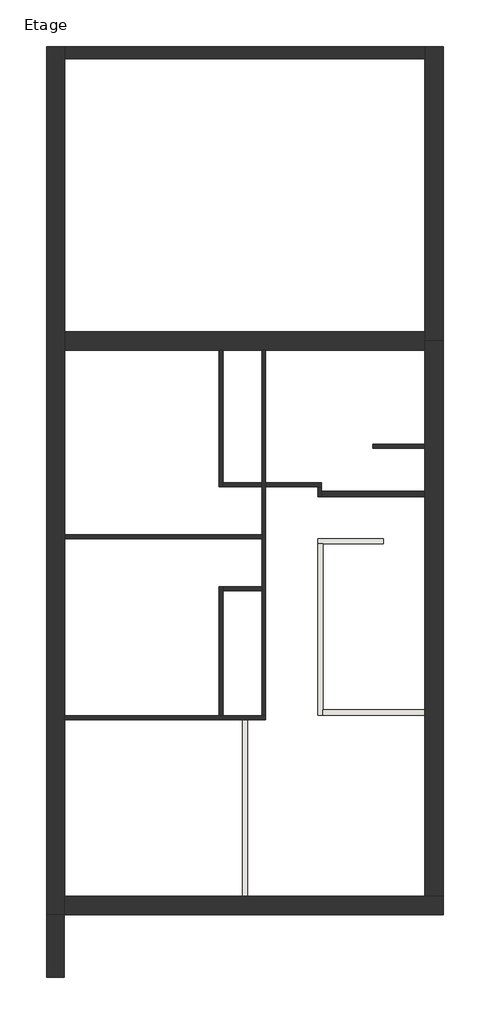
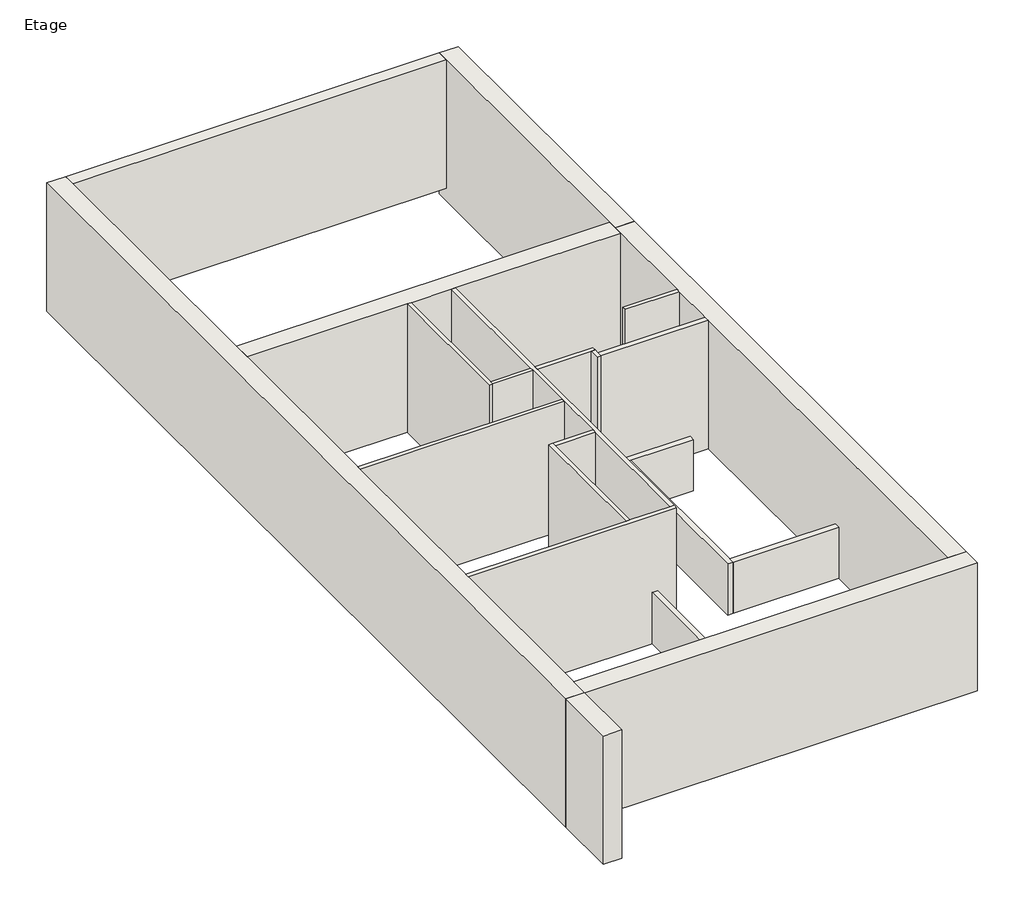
# One storey: 21 walls.
"""IFC4 building model written with IfcOpenShell, lengths in millimetres."""

from ifc_helpers import new_model, si_unit, frame, origin, place, context, project, spatial, polyline, outline, extrude, faceted_brep, element, save

model = new_model("IFC4")

# Units and contexts
model_context = context("Model", 3, world=origin())
ifc_project = project(units=[si_unit("LENGTHUNIT", "METRE", prefix="MILLI")], contexts=[model_context])

# Site, building, storey
site = spatial("IfcSite", under=ifc_project)
building = spatial("IfcBuilding", under=site)
storey = spatial("IfcBuildingStorey", under=building, Name="Etage", Elevation=3000.0)

# Walls
placement = place(None, origin())
element("IfcWall", 1, ObjectType="Ext. Bardage Métal + Isolant + Béton + Finition", at=placement, inside=storey, context=model_context, shape_type="Brep", body=[
    faceted_brep([(-7956.697342, 7854.9574199, 3000.0), (-7956.697342, 7624.9574199, 3000.0), (-7956.697342, -8735.0425801, 3000.0), (-7956.697342, -8735.0425801, 5500.0), (-7956.697342, 7854.9574199, 5500.0), (-7606.697342, 7854.9574199, 3000.0), (-7606.697342, 7854.9574199, 5500.0), (-7606.697342, 7624.9574199, 5500.0), (-7606.697342, 2404.9574199, 5500.0), (-7606.697342, 2054.9574199, 5500.0), (-7606.697342, -1478.0425801, 5500.0), (-7606.697342, -1550.0425801, 5500.0), (-7606.697342, -4933.0425801, 5500.0), (-7606.697342, -5005.0425801, 5500.0), (-7606.697342, -8385.0425801, 5500.0), (-7606.697342, -8735.0425801, 5500.0), (-7606.697342, -8735.0425801, 3000.0), (-7606.697342, -8385.0425801, 3000.0), (-7606.697342, -5005.0425801, 3000.0), (-7606.697342, -4933.0425801, 3000.0), (-7606.697342, -1550.0425801, 3000.0), (-7606.697342, -1478.0425801, 3000.0), (-7606.697342, 2054.9574199, 3000.0), (-7606.697342, 2404.9574199, 3000.0), (-7606.697342, 7624.9574199, 3000.0), (-7616.697342, -8735.0425801, 3000.0), (-7616.697342, -8735.0425801, 5500.0)], [[[0, 1, 2, 3, 4]], [[5, 6, 7, 8, 9, 10, 11, 12, 13, 14, 15, 16, 17, 18, 19, 20, 21, 22, 23, 24]], [[2, 1, 0, 5, 24, 23, 22, 21, 20, 19, 18, 17, 16, 25]], [[4, 3, 26, 15, 14, 13, 12, 11, 10, 9, 8, 7, 6]], [[0, 4, 6, 5]], [[3, 2, 25, 16, 15, 26]]]),
])
element("IfcWall", 2, ObjectType="Ext. Bardage Bois + Isolant + Béton + Finition", at=placement, inside=storey, context=model_context, shape_type="Brep", body=[
    faceted_brep([(-7606.697342, -8735.0425801, 3000.0), (-366.697342, -8735.0425801, 3000.0), (-366.697342, -8735.0425801, 5500.0), (-7606.697342, -8735.0425801, 5500.0), (-7606.697342, -8385.0425801, 3000.0), (-7606.697342, -8385.0425801, 5500.0), (-716.697342, -8385.0425801, 5500.0), (-366.697342, -8385.0425801, 5500.0), (-366.697342, -8385.0425801, 3000.0), (-716.697342, -8385.0425801, 3000.0), (-4111.697342, -8385.0425801, 3000.0), (-4211.697342, -8385.0425801, 3000.0)], [[[0, 1, 2, 3]], [[4, 5, 6, 7, 8, 9, 10, 11]], [[1, 0, 4, 11, 10, 9, 8]], [[3, 2, 7, 6, 5]], [[2, 1, 8, 7]], [[0, 3, 5, 4]]]),
])
element("IfcWall", 3, ObjectType="Ext. Bardage Bois + Isolant + Béton + Finition", at=placement, inside=storey, context=model_context, shape_type="Brep", body=[
    faceted_brep([(-366.697342, -8385.0425801, 3000.0), (-366.697342, -3635.0425801, 3000.0), (-366.697342, 2229.9574199, 3000.0), (-366.697342, 2229.9574199, 5500.0), (-366.697342, -8385.0425801, 5500.0), (-716.697342, -8385.0425801, 3000.0), (-716.697342, -8385.0425801, 5500.0), (-716.697342, -745.1038978, 5500.0), (-716.697342, -645.1038978, 5500.0), (-716.697342, 179.9574199, 5500.0), (-716.697342, 251.9574199, 5500.0), (-716.697342, 2054.9574199, 5500.0), (-716.697342, 2229.9574199, 5500.0), (-716.697342, 2229.9574199, 3000.0), (-716.697342, 2054.9574199, 3000.0), (-716.697342, 757.8961022, 3000.0), (-716.697342, 251.9574199, 3000.0), (-716.697342, 179.9574199, 3000.0), (-716.697342, -645.1038978, 3000.0), (-716.697342, -745.1038978, 3000.0), (-716.697342, -3635.0425801, 3000.0), (-716.697342, -4818.0425801, 3000.0), (-716.697342, -4918.0425801, 3000.0)], [[[0, 1, 2, 3, 4]], [[5, 6, 7, 8, 9, 10, 11, 12, 13, 14, 15, 16, 17, 18, 19, 20, 21, 22]], [[2, 1, 0, 5, 22, 21, 20, 19, 18, 17, 16, 15, 14, 13]], [[3, 2, 13, 12]], [[4, 3, 12, 11, 10, 9, 8, 7, 6]], [[0, 4, 6, 5]]]),
])
element("IfcWall", 4, ObjectType="Ext. Bardage Bois + Isolant + Béton + Finition", at=placement, inside=storey, context=model_context, shape_type="Brep", body=[
    faceted_brep([(-716.697342, 2404.9574199, 3000.0), (-5616.5193778, 2404.9574199, 3000.0), (-7606.697342, 2404.9574199, 3000.0), (-7606.697342, 2404.9574199, 5500.0), (-716.697342, 2404.9574199, 5500.0), (-716.697342, 2054.9574199, 3000.0), (-716.697342, 2054.9574199, 5500.0), (-3765.3224934, 2054.9574199, 5500.0), (-3837.3224934, 2054.9574199, 5500.0), (-4580.3224934, 2054.9574199, 5500.0), (-4652.3224934, 2054.9574199, 5500.0), (-7606.697342, 2054.9574199, 5500.0), (-7606.697342, 2054.9574199, 3000.0), (-5616.5193778, 2054.9574199, 3000.0), (-4652.3224934, 2054.9574199, 3000.0), (-4580.3224934, 2054.9574199, 3000.0), (-3837.3224934, 2054.9574199, 3000.0), (-3765.3224934, 2054.9574199, 3000.0), (-716.697342, 2229.9574199, 3000.0), (-716.697342, 2229.9574199, 5500.0)], [[[0, 1, 2, 3, 4]], [[5, 6, 7, 8, 9, 10, 11, 12, 13, 14, 15, 16, 17]], [[2, 1, 0, 18, 5, 17, 16, 15, 14, 13, 12]], [[4, 3, 11, 10, 9, 8, 7, 6, 19]], [[3, 2, 12, 11]], [[0, 4, 19, 6, 5, 18]]]),
])
element("IfcWall", 5, ObjectType="Int. Plâtre 70 mm", at=placement, inside=storey, context=model_context, shape_type="Brep", body=[
    faceted_brep([(-7606.697342, -5005.0425801, 3000.0), (-4211.697342, -5005.0425801, 3000.0), (-4111.697342, -5005.0425801, 3000.0), (-3765.3224934, -5005.0425801, 3000.0), (-3765.3224934, -5005.0425801, 5500.0), (-7606.697342, -5005.0425801, 5500.0), (-7606.697342, -4933.0425801, 3000.0), (-7606.697342, -4933.0425801, 5500.0), (-4652.3224934, -4933.0425801, 5500.0), (-4580.3224934, -4933.0425801, 5500.0), (-3837.3224934, -4933.0425801, 5500.0), (-3765.3224934, -4933.0425801, 5500.0), (-3765.3224934, -4933.0425801, 3000.0), (-3837.3224934, -4933.0425801, 3000.0), (-4580.3224934, -4933.0425801, 3000.0), (-4652.3224934, -4933.0425801, 3000.0)], [[[0, 1, 2, 3, 4, 5]], [[6, 7, 8, 9, 10, 11, 12, 13, 14, 15]], [[3, 2, 1, 0, 6, 15, 14, 13, 12]], [[5, 4, 11, 10, 9, 8, 7]], [[0, 5, 7, 6]], [[4, 3, 12, 11]]]),
])
element("IfcWall", 6, ObjectType="Int. Plâtre 70 mm", at=placement, inside=storey, context=model_context, shape_type="Brep", body=[
    faceted_brep([(-3765.3224934, -4933.0425801, 3000.0), (-3765.3224934, -556.0425801, 3000.0), (-3765.3224934, -484.0425801, 3000.0), (-3765.3224934, 2054.9574199, 3000.0), (-3765.3224934, 2054.9574199, 5500.0), (-3765.3224934, -484.0425801, 5500.0), (-3765.3224934, -556.0425801, 5500.0), (-3765.3224934, -4933.0425801, 5500.0), (-3837.3224934, -4933.0425801, 3000.0), (-3837.3224934, -4933.0425801, 5500.0), (-3837.3224934, -2542.0425801, 5500.0), (-3837.3224934, -2470.0425801, 5500.0), (-3837.3224934, -1550.0425801, 5500.0), (-3837.3224934, -1478.0425801, 5500.0), (-3837.3224934, -556.0425801, 5500.0), (-3837.3224934, -484.0425801, 5500.0), (-3837.3224934, 2054.9574199, 5500.0), (-3837.3224934, 2054.9574199, 3000.0), (-3837.3224934, -484.0425801, 3000.0), (-3837.3224934, -556.0425801, 3000.0), (-3837.3224934, -1478.0425801, 3000.0), (-3837.3224934, -1550.0425801, 3000.0), (-3837.3224934, -2470.0425801, 3000.0), (-3837.3224934, -2542.0425801, 3000.0)], [[[0, 1, 2, 3, 4, 5, 6, 7]], [[8, 9, 10, 11, 12, 13, 14, 15, 16, 17, 18, 19, 20, 21, 22, 23]], [[3, 2, 1, 0, 8, 23, 22, 21, 20, 19, 18, 17]], [[7, 6, 5, 4, 16, 15, 14, 13, 12, 11, 10, 9]], [[0, 7, 9, 8]], [[4, 3, 17, 16]]]),
])
element("IfcWall", 7, ObjectType="Int. Plâtre 70 mm", at=placement, inside=storey, context=model_context, shape_type="Brep", body=[
    faceted_brep([(-4652.3224934, 2054.9574199, 3000.0), (-4652.3224934, -556.0425801, 3000.0), (-4652.3224934, -556.0425801, 5500.0), (-4652.3224934, 2054.9574199, 5500.0), (-4580.3224934, 2054.9574199, 3000.0), (-4580.3224934, 2054.9574199, 5500.0), (-4580.3224934, -484.0425801, 5500.0), (-4580.3224934, -556.0425801, 5500.0), (-4580.3224934, -556.0425801, 3000.0), (-4580.3224934, -484.0425801, 3000.0)], [[[0, 1, 2, 3]], [[4, 5, 6, 7, 8, 9]], [[1, 0, 4, 9, 8]], [[3, 2, 7, 6, 5]], [[0, 3, 5, 4]], [[2, 1, 8, 7]]]),
])
element("IfcWall", 8, ObjectType="Int. Plâtre 70 mm", at=placement, inside=storey, context=model_context, shape_type="Brep", body=[
    faceted_brep([(-4580.3224934, -556.0425801, 5500.0), (-4580.3224934, -556.0425801, 3000.0), (-3837.3224934, -556.0425801, 3000.0), (-3837.3224934, -556.0425801, 5500.0), (-4580.3224934, -484.0425801, 3000.0), (-4580.3224934, -484.0425801, 5500.0), (-3837.3224934, -484.0425801, 5500.0), (-3837.3224934, -484.0425801, 3000.0)], [[[0, 1, 2, 3]], [[4, 5, 6, 7]], [[1, 4, 7, 2]], [[5, 0, 3, 6]], [[1, 0, 5, 4]], [[3, 2, 7, 6]]]),
    faceted_brep([(-2697.3224934, -556.0425801, 3000.0), (-2697.3224934, -556.0425801, 5500.0), (-2769.3224934, -556.0425801, 5500.0), (-3765.3224934, -556.0425801, 5500.0), (-3765.3224934, -556.0425801, 3000.0), (-2769.3224934, -556.0425801, 3000.0), (-2697.3224934, -484.0425801, 5500.0), (-2697.3224934, -484.0425801, 3000.0), (-3765.3224934, -484.0425801, 3000.0), (-3765.3224934, -484.0425801, 5500.0)], [[[0, 1, 2, 3, 4, 5]], [[6, 7, 8, 9]], [[7, 0, 5, 4, 8]], [[1, 6, 9, 3, 2]], [[4, 3, 9, 8]], [[1, 0, 7, 6]]]),
])
element("IfcWall", 9, ObjectType="Int. Plâtre 70 mm", at=placement, inside=storey, context=model_context, shape_type="Brep", body=[
    faceted_brep([(-2769.3224934, -556.0425801, 3000.0), (-2769.3224934, -745.1038978, 3000.0), (-2769.3224934, -745.1038978, 5500.0), (-2769.3224934, -556.0425801, 5500.0), (-2697.3224934, -556.0425801, 3000.0), (-2697.3224934, -556.0425801, 5500.0), (-2697.3224934, -645.1038978, 5500.0), (-2697.3224934, -745.1038978, 5500.0), (-2697.3224934, -745.1038978, 3000.0), (-2697.3224934, -645.1038978, 3000.0)], [[[0, 1, 2, 3]], [[4, 5, 6, 7, 8, 9]], [[1, 0, 4, 9, 8]], [[3, 2, 7, 6, 5]], [[0, 3, 5, 4]], [[2, 1, 8, 7]]]),
])
element("IfcWall", 10, ObjectType="Int. Plâtre 70 mm", at=placement, inside=storey, context=model_context, shape_type="SweptSolid", body=[
    extrude(outline(polyline([(-1715.2343073, 251.9574199), (-716.697342, 251.9574199), (-716.697342, 179.9574199), (-1715.2343073, 179.9574199), (-1715.2343073, 251.9574199)])), frame((0.0, 0.0, 3000.0), z_axis=(0.0, 0.0, 1.0), x_axis=(1.0, 0.0, 0.0)), (0.0, 0.0, 1.0), 2500.0),
])
element("IfcWall", 11, ObjectType="Int. Plâtre 70 mm", at=placement, inside=storey, context=model_context, shape_type="Brep", body=[
    faceted_brep([(-4580.3224934, -4933.0425801, 3000.0), (-4580.3224934, -2542.0425801, 3000.0), (-4580.3224934, -2470.0425801, 3000.0), (-4580.3224934, -2470.0425801, 5500.0), (-4580.3224934, -2542.0425801, 5500.0), (-4580.3224934, -4933.0425801, 5500.0), (-4652.3224934, -4933.0425801, 3000.0), (-4652.3224934, -4933.0425801, 5500.0), (-4652.3224934, -2470.0425801, 5500.0), (-4652.3224934, -2470.0425801, 3000.0)], [[[0, 1, 2, 3, 4, 5]], [[6, 7, 8, 9]], [[2, 1, 0, 6, 9]], [[5, 4, 3, 8, 7]], [[0, 5, 7, 6]], [[3, 2, 9, 8]]]),
])
element("IfcWall", 12, ObjectType="Int. Plâtre 70 mm", at=placement, inside=storey, context=model_context, shape_type="SweptSolid", body=[
    extrude(outline(polyline([(-3837.3224934, -2542.0425801), (-4580.3224934, -2542.0425801), (-4580.3224934, -2470.0425801), (-3837.3224934, -2470.0425801), (-3837.3224934, -2542.0425801)])), frame((0.0, 0.0, 3000.0), z_axis=(0.0, 0.0, 1.0), x_axis=(1.0, 0.0, 0.0)), (0.0, 0.0, 1.0), 2500.0),
])
element("IfcWall", 13, ObjectType="Int. Plâtre 70 mm", at=placement, inside=storey, context=model_context, shape_type="SweptSolid", body=[
    extrude(outline(polyline([(-7606.697342, -1478.0425801), (-3837.3224934, -1478.0425801), (-3837.3224934, -1550.0425801), (-7606.697342, -1550.0425801), (-7606.697342, -1478.0425801)])), frame((0.0, 0.0, 3000.0), z_axis=(0.0, 0.0, 1.0), x_axis=(1.0, 0.0, 0.0)), (0.0, 0.0, 1.0), 2500.0),
])
element("IfcWall", 14, ObjectType="Int. Plâtre 100 mm", at=placement, inside=storey, context=model_context, shape_type="SweptSolid", body=[
    extrude(outline(polyline([(-2697.3224934, -645.1038978), (-716.697342, -645.1038978), (-716.697342, -745.1038978), (-2697.3224934, -745.1038978), (-2697.3224934, -645.1038978)])), frame((0.0, 0.0, 3000.0), z_axis=(0.0, 0.0, 1.0), x_axis=(1.0, 0.0, 0.0)), (0.0, 0.0, 1.0), 2500.0),
])
element("IfcWall", 15, ObjectType="Int. Plâtre 100 mm", at=placement, inside=storey, context=model_context, shape_type="Brep", body=[
    faceted_brep([(-2769.3224934, -1645.1038978, 3000.0), (-2719.1256089, -1645.1038978, 3000.0), (-2669.3224934, -1645.1038978, 3000.0), (-2619.1256089, -1645.1038978, 3000.0), (-1515.8753062, -1645.1038978, 3000.0), (-1515.8753062, -1645.1038978, 4000.0), (-2669.3224934, -1645.1038978, 4000.0), (-2769.3224934, -1645.1038978, 4000.0), (-2769.3224934, -1545.1038978, 3000.0), (-2769.3224934, -1545.1038978, 4000.0), (-1515.8753062, -1545.1038978, 4000.0), (-1515.8753062, -1545.1038978, 3000.0), (-2619.1256089, -1545.1038978, 3000.0)], [[[0, 1, 2, 3, 4, 5, 6, 7]], [[8, 9, 10, 11, 12]], [[4, 3, 2, 1, 0, 8, 12, 11]], [[5, 4, 11, 10]], [[7, 6, 5, 10, 9]], [[0, 7, 9, 8]]]),
])
element("IfcWall", 16, ObjectType="Int. Plâtre 100 mm", at=placement, inside=storey, context=model_context, shape_type="Brep", body=[
    faceted_brep([(-2669.3224934, -4918.0425801, 3000.0), (-2669.3224934, -4818.0425801, 3000.0), (-2669.3224934, -1645.1038978, 3000.0), (-2669.3224934, -1645.1038978, 4000.0), (-2669.3224934, -4818.0425801, 4000.0), (-2669.3224934, -4918.0425801, 4000.0), (-2769.3224934, -4918.0425801, 3000.0), (-2769.3224934, -4918.0425801, 4000.0), (-2769.3224934, -1645.1038978, 4000.0), (-2769.3224934, -1645.1038978, 3000.0)], [[[0, 1, 2, 3, 4, 5]], [[6, 7, 8, 9]], [[2, 1, 0, 6, 9]], [[5, 4, 3, 8, 7]], [[0, 5, 7, 6]], [[3, 2, 9, 8]]]),
])
element("IfcWall", 17, ObjectType="Int. Plâtre 100 mm", at=placement, inside=storey, context=model_context, shape_type="SweptSolid", body=[
    extrude(outline(polyline([(-2669.3224934, -4818.0425801), (-716.697342, -4818.0425801), (-716.697342, -4918.0425801), (-2669.3224934, -4918.0425801), (-2669.3224934, -4818.0425801)])), frame((0.0, 0.0, 3000.0), z_axis=(0.0, 0.0, 1.0), x_axis=(1.0, 0.0, 0.0)), (0.0, 0.0, 1.0), 1000.0),
])
element("IfcWall", 18, ObjectType="Int. Plâtre 100 mm", at=placement, inside=storey, context=model_context, shape_type="SweptSolid", body=[
    extrude(outline(polyline([(-4211.697342, -8385.0425801), (-4211.697342, -5005.0425801), (-4111.697342, -5005.0425801), (-4111.697342, -8385.0425801), (-4211.697342, -8385.0425801)])), frame((0.0, 0.0, 3000.0), z_axis=(0.0, 0.0, 1.0), x_axis=(1.0, 0.0, 0.0)), (0.0, 0.0, 1.0), 1000.0),
])
element("IfcWall", 19, ObjectType="Ext. Bardage Bois + Béton + Finition", at=placement, inside=storey, context=model_context, shape_type="Brep", body=[
    faceted_brep([(-7606.697342, 7624.9574199, 3000.0), (-5616.5193778, 7624.9574199, 3000.0), (-716.697342, 7624.9574199, 3000.0), (-716.697342, 7624.9574199, 5500.0), (-7606.697342, 7624.9574199, 5500.0), (-7606.697342, 7854.9574199, 3000.0), (-7606.697342, 7854.9574199, 5500.0), (-716.697342, 7854.9574199, 5500.0), (-716.697342, 7854.9574199, 3000.0), (-5616.5193778, 7854.9574199, 3000.0)], [[[0, 1, 2, 3, 4]], [[5, 6, 7, 8, 9]], [[2, 1, 0, 5, 9, 8]], [[4, 3, 7, 6]], [[0, 4, 6, 5]], [[3, 2, 8, 7]]]),
])
element("IfcWall", 20, ObjectType="Ext. Bardage Bois + Isolant + Béton + Finition", at=placement, inside=storey, context=model_context, shape_type="Brep", body=[
    faceted_brep([(-366.697342, 2229.9574199, 2750.0), (-366.697342, 2404.9574199, 2750.0), (-366.697342, 7614.9574199, 2750.0), (-366.697342, 7854.9574199, 2750.0), (-366.697342, 7854.9574199, 5500.0), (-366.697342, 2229.9574199, 5500.0), (-366.697342, 2229.9574199, 3000.0), (-716.697342, 2229.9574199, 2750.0), (-716.697342, 2229.9574199, 3000.0), (-716.697342, 2229.9574199, 5500.0), (-716.697342, 2404.9574199, 5500.0), (-716.697342, 7624.9574199, 5500.0), (-716.697342, 7854.9574199, 5500.0), (-716.697342, 7854.9574199, 3000.0), (-716.697342, 7854.9574199, 2750.0), (-716.697342, 7614.9574199, 2750.0), (-716.697342, 2404.9574199, 2750.0)], [[[0, 1, 2, 3, 4, 5, 6]], [[7, 8, 9, 10, 11, 12, 13, 14, 15, 16]], [[3, 2, 1, 0, 7, 16, 15, 14]], [[5, 4, 12, 11, 10, 9]], [[0, 6, 5, 9, 8, 7]], [[4, 3, 14, 13, 12]]]),
])
element("IfcWall", 21, ObjectType="Ext. Bardage Métal + Isolant + Béton + Bardage Bois", at=placement, inside=storey, context=model_context, shape_type="SweptSolid", body=[
    extrude(outline(polyline([(-7956.697342, -9932.1038978), (-7956.697342, -8735.0425801), (-7616.697342, -8735.0425801), (-7616.697342, -9932.1038978), (-7956.697342, -9932.1038978)])), frame((0.0, 0.0, 3000.0), z_axis=(0.0, 0.0, 1.0), x_axis=(1.0, 0.0, 0.0)), (0.0, 0.0, 1.0), 2500.0),
])

save(model, "model.ifc")
